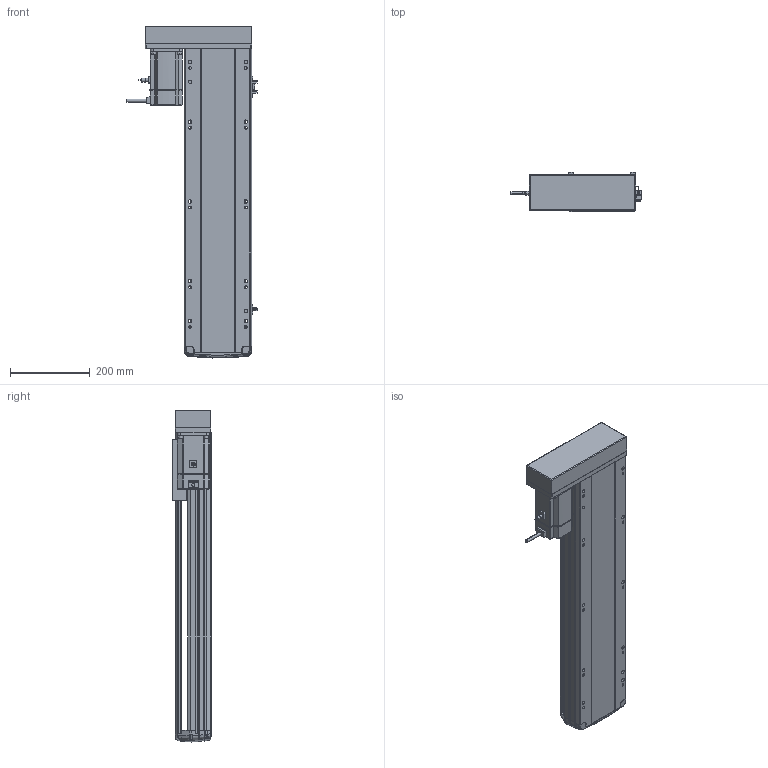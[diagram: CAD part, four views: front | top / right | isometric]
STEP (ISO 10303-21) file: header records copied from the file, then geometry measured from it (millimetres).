
FILE_DESCRIPTION (( 'STEP AP214' ), '1' );
FILE_NAME ('RTH17-XX-550-R-M75-C4.STEP', '2025-10-24T10:16:10', ( '' ), ( '' ), 'SwSTEP 2.0', 'SolidWorks 2018', '' );
FILE_SCHEMA (( 'AUTOMOTIVE_DESIGN' ));
Length unit declared in the file: millimetre
Products named in the file (10): N_RTH17-M-011底座^RTH17-XX-XX-R-M75-C4（方程式）; RTH17-XX-550-R-M75-C4; N_RTH17-E-004丝杆螺母连接座^RTH17-XX-XX-R-M75-C4（方程式）; N_RTH17-M-007上盖^RTH17-XX-XX-R-M75-C4（方程式）; N_RTH17-L-008-P75电机安装板左转折^RTH17-XX-XX-R-M75-C4（方程式）; N_M75^RTH17-XX-XX-R-M75-C4（方程式）; N_RTH17-L-018盖子^RTH17-XX-XX-R-M75-C4（方程式）; N_RTH17-GY-001P^RTH17-XX-XX-R-M75-C4（方程式）; N_OMRON EE-SX672 換覜ん^RTH17-XX-XX-R-M75-C4ㄗ源最宒ㄘ; N_RTH-L-012 感应片(外置)^RTH17-XX-XX-R-M75-C4（方程式）
Assembly tree (11 placements, depth 2):
  RTH17-XX-550-R-M75-C4
    N_RTH17-M-011底座^RTH17-XX-XX-R-M75-C4（方程式）
    N_RTH17-M-007上盖^RTH17-XX-XX-R-M75-C4（方程式）
    N_M75^RTH17-XX-XX-R-M75-C4（方程式）
    N_OMRON EE-SX672 換覜ん^RTH17-XX-XX-R-M75-C4ㄗ源最宒ㄘ  x3
    N_RTH-L-012 感应片(外置)^RTH17-XX-XX-R-M75-C4（方程式）
    N_RTH17-L-008-P75电机安装板左转折^RTH17-XX-XX-R-M75-C4（方程式）
    N_RTH17-L-018盖子^RTH17-XX-XX-R-M75-C4（方程式）
    N_RTH17-E-004丝杆螺母连接座^RTH17-XX-XX-R-M75-C4（方程式）
    N_RTH17-GY-001P^RTH17-XX-XX-R-M75-C4（方程式）
Bounding box: 326.2 x 97 x 832.99 mm (x, y, z)
Volume: 8138637.8 mm3; surface area: 1022666.8 mm2
Topology: 13 solids, 15 shells, 1741 faces, 4781 edges, 3094 vertices
Faces by surface type: plane 831, cylinder 496, bspline 377, cone 28, torus 9
Entity records: 50545 total; most frequent: CARTESIAN_POINT 20241, ORIENTED_EDGE 6586, DIRECTION 5473, EDGE_CURVE 3297, VERTEX_POINT 2130, AXIS2_PLACEMENT_3D 1837, VECTOR 1799, LINE 1799
